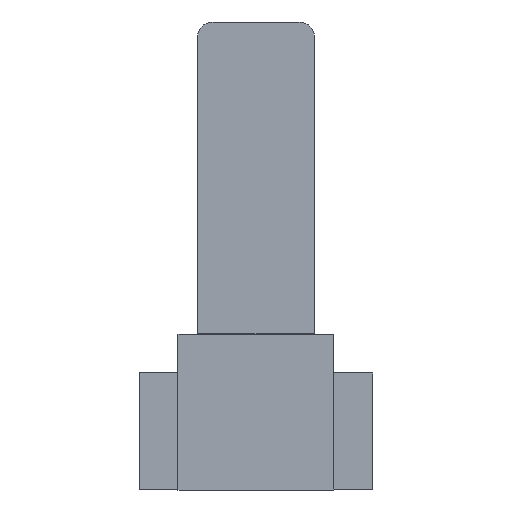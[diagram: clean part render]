
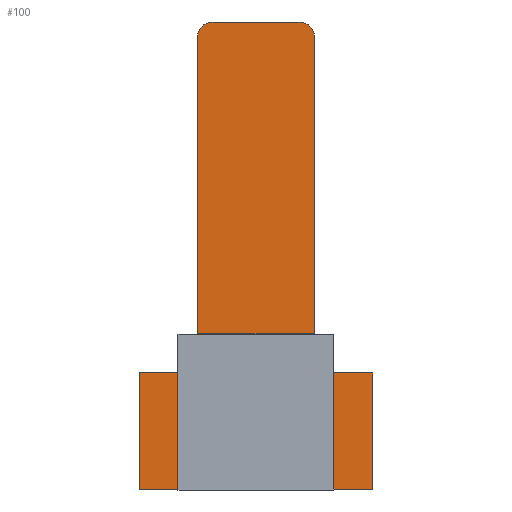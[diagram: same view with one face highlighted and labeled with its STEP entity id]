
A CAD part, left-side view. The second image highlights one B-rep face of the part: STEP entity #100.
In plain terms, the highlighted planar face has unit normal (-1, 0, 0).
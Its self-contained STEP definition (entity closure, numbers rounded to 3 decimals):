
#100=ADVANCED_FACE('',(#155),#156,.T.);
#155=FACE_OUTER_BOUND('',#210,.T.);
#156=PLANE('',#211);
#210=EDGE_LOOP('',(#398,#399,#400,#401,#402,#403,#404,#405,#406,#407,#408,#409));
#211=AXIS2_PLACEMENT_3D('',#410,#411,#412);
#398=ORIENTED_EDGE('',*,*,#447,.F.);
#399=ORIENTED_EDGE('',*,*,#453,.F.);
#400=ORIENTED_EDGE('',*,*,#474,.F.);
#401=ORIENTED_EDGE('',*,*,#472,.F.);
#402=ORIENTED_EDGE('',*,*,#470,.F.);
#403=ORIENTED_EDGE('',*,*,#468,.F.);
#404=ORIENTED_EDGE('',*,*,#466,.F.);
#405=ORIENTED_EDGE('',*,*,#464,.F.);
#406=ORIENTED_EDGE('',*,*,#462,.F.);
#407=ORIENTED_EDGE('',*,*,#443,.F.);
#408=ORIENTED_EDGE('',*,*,#475,.F.);
#409=ORIENTED_EDGE('',*,*,#448,.F.);
#410=CARTESIAN_POINT('',(66.987,10.709,40.783));
#411=DIRECTION('',(-1.0,0.,0.));
#412=DIRECTION('',(0.,-1.0,0.0));
#443=EDGE_CURVE('',#521,#517,#523,.T.);
#447=EDGE_CURVE('',#529,#525,#531,.T.);
#448=EDGE_CURVE('',#525,#532,#533,.T.);
#453=EDGE_CURVE('',#539,#529,#541,.T.);
#462=EDGE_CURVE('',#517,#556,#557,.T.);
#464=EDGE_CURVE('',#556,#559,#560,.T.);
#466=EDGE_CURVE('',#559,#562,#563,.T.);
#468=EDGE_CURVE('',#562,#565,#566,.T.);
#470=EDGE_CURVE('',#565,#568,#569,.T.);
#472=EDGE_CURVE('',#568,#571,#572,.T.);
#474=EDGE_CURVE('',#571,#539,#574,.T.);
#475=EDGE_CURVE('',#532,#521,#575,.T.);
#517=VERTEX_POINT('',#641);
#521=VERTEX_POINT('',#646);
#523=CIRCLE('',#649,2.0);
#525=VERTEX_POINT('',#651);
#529=VERTEX_POINT('',#656);
#531=CIRCLE('',#659,2.0);
#532=VERTEX_POINT('',#660);
#533=CIRCLE('',#661,2.0);
#539=VERTEX_POINT('',#669);
#541=LINE('',#672,#673);
#556=VERTEX_POINT('',#695);
#557=CIRCLE('',#696,2.0);
#559=VERTEX_POINT('',#699);
#560=LINE('',#700,#701);
#562=VERTEX_POINT('',#704);
#563=LINE('',#705,#706);
#565=VERTEX_POINT('',#709);
#566=LINE('',#710,#711);
#568=VERTEX_POINT('',#714);
#569=LINE('',#715,#716);
#571=VERTEX_POINT('',#719);
#572=LINE('',#720,#721);
#574=LINE('',#724,#725);
#575=LINE('',#726,#727);
#641=CARTESIAN_POINT('',(66.987,3.795,73.947));
#646=CARTESIAN_POINT('',(66.987,5.209,74.533));
#649=AXIS2_PLACEMENT_3D('',#757,#758,#759);
#651=CARTESIAN_POINT('',(66.987,17.624,73.947));
#656=CARTESIAN_POINT('',(66.987,18.209,72.533));
#659=AXIS2_PLACEMENT_3D('',#765,#766,#767);
#660=CARTESIAN_POINT('',(66.987,16.209,74.533));
#661=AXIS2_PLACEMENT_3D('',#768,#769,#770);
#669=CARTESIAN_POINT('',(66.987,18.209,29.533));
#672=CARTESIAN_POINT('',(66.987,18.209,29.533));
#673=VECTOR('',#777,1.0);
#695=CARTESIAN_POINT('',(66.987,3.209,72.533));
#696=AXIS2_PLACEMENT_3D('',#788,#789,#790);
#699=CARTESIAN_POINT('',(66.987,3.209,29.533));
#700=CARTESIAN_POINT('',(66.987,3.209,74.533));
#701=VECTOR('',#792,1.0);
#704=CARTESIAN_POINT('',(66.987,-4.291,29.533));
#705=CARTESIAN_POINT('',(66.987,3.209,29.533));
#706=VECTOR('',#794,1.0);
#709=CARTESIAN_POINT('',(66.987,-4.291,14.533));
#710=CARTESIAN_POINT('',(66.987,-4.291,29.533));
#711=VECTOR('',#796,1.0);
#714=CARTESIAN_POINT('',(66.987,25.709,14.533));
#715=CARTESIAN_POINT('',(66.987,-4.291,14.533));
#716=VECTOR('',#798,1.0);
#719=CARTESIAN_POINT('',(66.987,25.709,29.533));
#720=CARTESIAN_POINT('',(66.987,25.709,14.533));
#721=VECTOR('',#800,1.0);
#724=CARTESIAN_POINT('',(66.987,25.709,29.533));
#725=VECTOR('',#802,1.0);
#726=CARTESIAN_POINT('',(66.987,18.209,74.533));
#727=VECTOR('',#803,1.0);
#757=CARTESIAN_POINT('',(66.987,5.209,72.533));
#758=DIRECTION('',(1.0,0.,0.));
#759=DIRECTION('',(0.,-0.707,0.707));
#765=CARTESIAN_POINT('',(66.987,16.209,72.533));
#766=DIRECTION('',(1.0,0.,0.));
#767=DIRECTION('',(0.,0.707,0.707));
#768=CARTESIAN_POINT('',(66.987,16.209,72.533));
#769=DIRECTION('',(1.0,0.,0.));
#770=DIRECTION('',(0.,0.707,0.707));
#777=DIRECTION('',(0.,0.,1.0));
#788=CARTESIAN_POINT('',(66.987,5.209,72.533));
#789=DIRECTION('',(1.0,0.,0.));
#790=DIRECTION('',(0.,-0.707,0.707));
#792=DIRECTION('',(0.,0.,-1.0));
#794=DIRECTION('',(0.,-1.0,0.));
#796=DIRECTION('',(0.,0.,-1.0));
#798=DIRECTION('',(0.,1.0,0.));
#800=DIRECTION('',(0.,0.,1.0));
#802=DIRECTION('',(0.,-1.0,0.));
#803=DIRECTION('',(0.,-1.0,0.));
